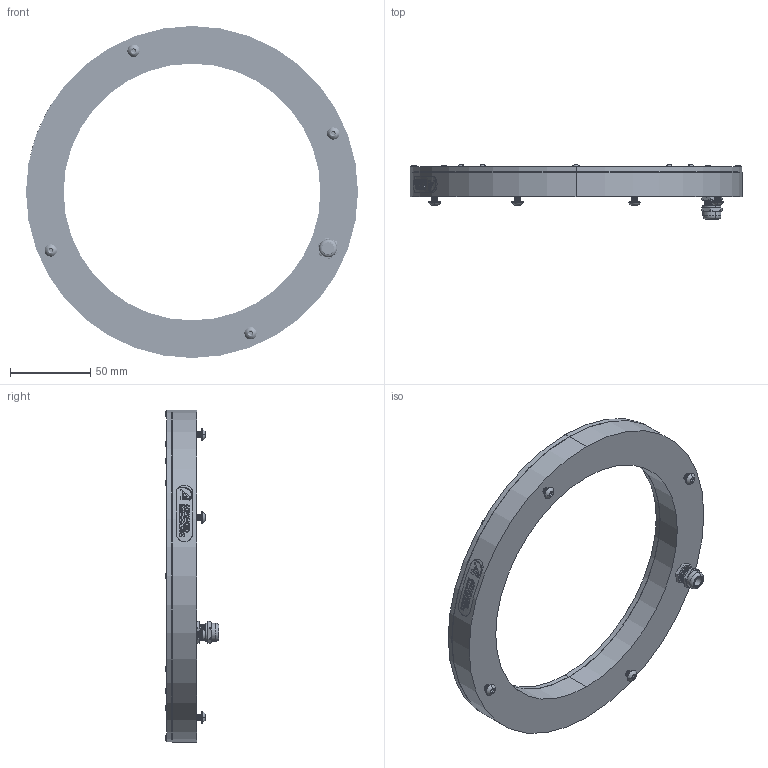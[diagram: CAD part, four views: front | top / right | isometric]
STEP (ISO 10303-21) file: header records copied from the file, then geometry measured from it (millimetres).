
FILE_DESCRIPTION (( 'STEP AP214' ), '1' );
FILE_NAME ('RL208-160_Default.stp', '2021-05-07T17:41:57', ( '' ), ( '' ), 'SwSTEP 2.0', 'SolidWorks 2018', '' );
FILE_SCHEMA (( 'AUTOMOTIVE_DESIGN' ));
Length unit declared in the file: inch
Products named in the file (8): 097972_Default<As Machined>; 91255A077_91255A077; BH-M4x8; 091052 RL208-160; 094424_Default<As Machined>; 095444_Default<As Machined>; RL208-160_Default; 091064_Model_Dome Fittings_Thread Type and Size(Dome)_M10 x 1.5_Hazardous Location-Explosive Proof(ATEX and EExe Versions)_No_
Assembly tree (25 placements, depth 2):
  RL208-160_Default
    094424_Default<As Machined>
    091064_Model_Dome Fittings_Thread Type and Size(Dome)_M10 x 1.5_Hazardous Location-Explosive Proof(ATEX and EExe Versions)_No_
    095444_Default<As Machined>
    097972_Default<As Machined>
    91255A077_91255A077  x16
    BH-M4x8  x4
    091052 RL208-160
Bounding box: 206.86 x 33.64 x 206.86 mm (x, y, z)
Volume: 178403.7 mm3; surface area: 118232.1 mm2
Topology: 26 solids, 26 shells, 3077 faces, 6656 edges, 3689 vertices
Faces by surface type: cone 1258, cylinder 1196, plane 480, bspline 95, sphere 32, torus 16
Entity records: 33796 total; most frequent: CARTESIAN_POINT 13333, ORIENTED_EDGE 3430, DIRECTION 3233, EDGE_CURVE 1715, AXIS2_PLACEMENT_3D 1304, VERTEX_POINT 1067, EDGE_LOOP 868, FACE_OUTER_BOUND 728
